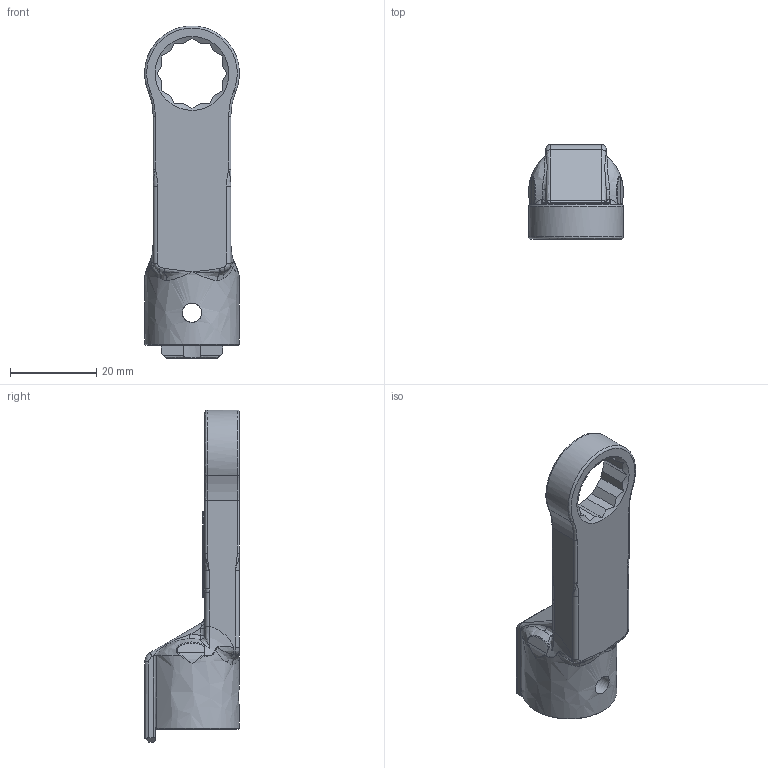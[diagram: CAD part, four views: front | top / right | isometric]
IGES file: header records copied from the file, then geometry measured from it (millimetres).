
Global section: file name: RH15DX14; native system: Autodesk Inventor 2016; preprocessor: unknown; author: Q600; date: 20151110.162319; units: millimetre
Bounding box: 22 x 22 x 76.99 mm (x, y, z)
Volume: 11250.1 mm3; surface area: 5819.9 mm2
Topology: 1 solids, 1 shells, 188 faces, 486 edges, 283 vertices
Faces by surface type: bspline 188
